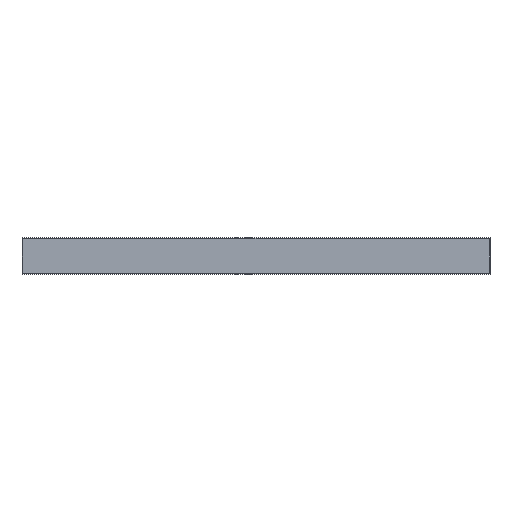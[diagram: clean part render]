
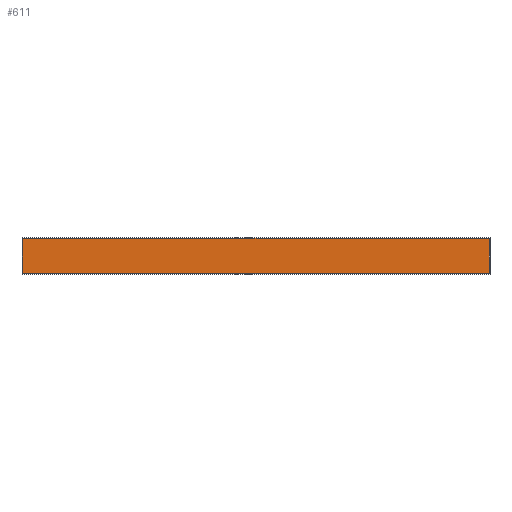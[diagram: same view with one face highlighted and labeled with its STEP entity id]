
A CAD part, top view. The second image highlights one B-rep face of the part: STEP entity #611.
In plain terms, the highlighted planar face has unit normal (0, 0, 1).
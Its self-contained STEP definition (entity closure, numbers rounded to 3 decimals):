
#361=DIRECTION('',(-1.,0.,0.));
#362=VECTOR('',#361,787.);
#363=CARTESIAN_POINT('',(393.5,29.5,3.));
#364=LINE('',#363,#362);
#368=DIRECTION('',(0.,1.,0.));
#369=VECTOR('',#368,59.);
#370=CARTESIAN_POINT('',(393.5,-29.5,3.));
#371=LINE('',#370,#369);
#375=DIRECTION('',(1.,0.,0.));
#376=VECTOR('',#375,787.);
#377=CARTESIAN_POINT('',(-393.5,-29.5,3.));
#378=LINE('',#377,#376);
#382=DIRECTION('',(0.,-1.,0.));
#383=VECTOR('',#382,59.);
#384=CARTESIAN_POINT('',(-393.5,29.5,3.));
#385=LINE('',#384,#383);
#400=CARTESIAN_POINT('',(393.5,29.5,3.));
#401=CARTESIAN_POINT('',(-393.5,29.5,3.));
#402=VERTEX_POINT('',#400);
#403=VERTEX_POINT('',#401);
#424=CARTESIAN_POINT('',(-393.5,-29.5,3.));
#425=CARTESIAN_POINT('',(393.5,-29.5,3.));
#426=VERTEX_POINT('',#424);
#427=VERTEX_POINT('',#425);
#599=CARTESIAN_POINT('',(0.,0.,3.));
#600=DIRECTION('',(0.,0.,1.));
#601=DIRECTION('',(1.,0.,0.));
#602=AXIS2_PLACEMENT_3D('',#599,#600,#601);
#603=PLANE('',#602);
#604=ORIENTED_EDGE('',*,*,#482,.F.);
#605=ORIENTED_EDGE('',*,*,#498,.F.);
#607=ORIENTED_EDGE('',*,*,#606,.F.);
#608=ORIENTED_EDGE('',*,*,#592,.F.);
#609=EDGE_LOOP('',(#604,#605,#607,#608));
#610=FACE_OUTER_BOUND('',#609,.F.);
#482=EDGE_CURVE('',#402,#403,#364,.T.);
#498=EDGE_CURVE('',#427,#402,#371,.T.);
#592=EDGE_CURVE('',#403,#426,#385,.T.);
#606=EDGE_CURVE('',#426,#427,#378,.T.);
#611=ADVANCED_FACE('',(#610),#603,.T.);
